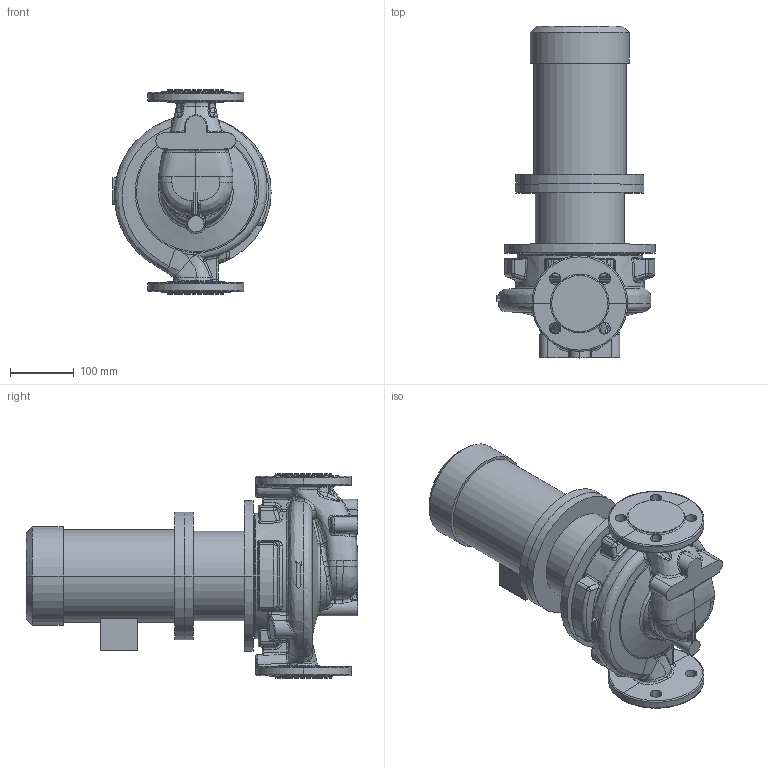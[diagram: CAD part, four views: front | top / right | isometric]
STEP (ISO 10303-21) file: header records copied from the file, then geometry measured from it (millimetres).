
FILE_DESCRIPTION (( 'STEP AP203' ), '1' );
FILE_NAME ('KRL 40-160-176_4-0,75.STEP', '2026-05-12T08:46:17', ( '' ), ( '' ), 'SwSTEP 2.0', 'SolidWorks 2016', '' );
FILE_SCHEMA (( 'CONFIG_CONTROL_DESIGN' ));
Length unit declared in the file: millimetre
Products named in the file (1): KRL 40-160-176_4-0,75
Bounding box: 248 x 519.8 x 320 mm (x, y, z)
Volume: 12908652.2 mm3; surface area: 744688.2 mm2
Topology: 4 solids, 4 shells, 719 faces, 1728 edges, 1008 vertices
Faces by surface type: bspline 353, cylinder 130, plane 99, torus 52, cone 45, sphere 40
Entity records: 74689 total; most frequent: CARTESIAN_POINT 60989, ORIENTED_EDGE 3398, DIRECTION 2083, EDGE_CURVE 1699, VERTEX_POINT 1008, AXIS2_PLACEMENT_3D 916, B_SPLINE_CURVE_WITH_KNOTS 828, EDGE_LOOP 755
